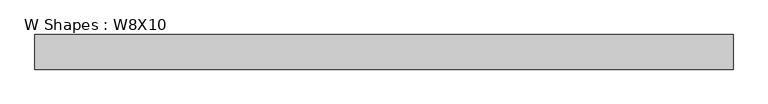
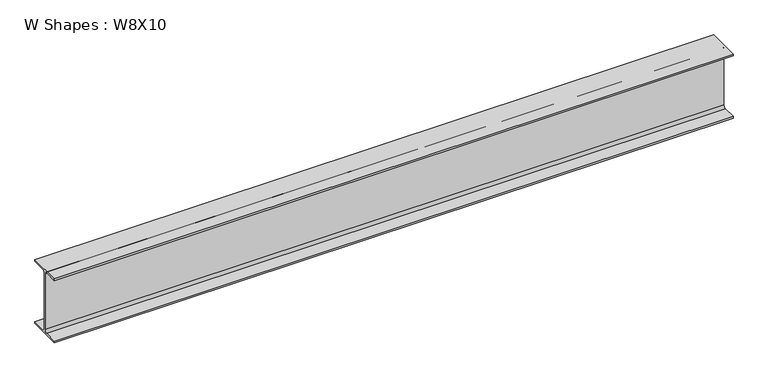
"""IFC4 building model written with IfcOpenShell, lengths in millimetres: beam geometry, W Shapes : W8X10."""

from ifc_helpers import new_model, si_unit, point, frame, frame_2d, origin, place, context, project, spatial, polyline, circle_curve, trimmed, segment, composite_curve, outline, extrude, source, transform, mapped, element, save


def w_shapes_w8x10_0597b553(model_context):
    return source(origin(), model_context, "Body", "SweptSolid", [
        extrude(outline(composite_curve([segment(polyline([(50.038, -94.996), (50.038, -100.203), (-50.038, -100.203), (-50.038, -94.996), (-9.779, -94.996)]), True, "CONTINUOUS"), segment(trimmed(circle_curve(frame_2d((-9.779, -87.376)), 7.62), [point((-9.779, -94.996))], [point((-2.159, -87.376))], True, "CARTESIAN"), True, "CONTINUOUS"), segment(polyline([(-2.159, -87.376), (-2.159, 87.376)]), True, "CONTINUOUS"), segment(trimmed(circle_curve(frame_2d((-9.779, 87.376)), 7.62), [point((-2.159, 87.376))], [point((-9.779, 94.996))], True, "CARTESIAN"), True, "CONTINUOUS"), segment(polyline([(-9.779, 94.996), (-50.038, 94.996), (-50.038, 100.203), (50.038, 100.203), (50.038, 94.996), (9.779, 94.996)]), True, "CONTINUOUS"), segment(trimmed(circle_curve(frame_2d((9.779, 87.376)), 7.62), [point((9.779, 94.996))], [point((2.159, 87.376))], True, "CARTESIAN"), True, "CONTINUOUS"), segment(polyline([(2.159, 87.376), (2.159, -87.376)]), True, "CONTINUOUS"), segment(trimmed(circle_curve(frame_2d((9.779, -87.376)), 7.62), [point((2.159, -87.376))], [point((9.779, -94.996))], True, "CARTESIAN"), True, "CONTINUOUS"), segment(polyline([(9.779, -94.996), (50.038, -94.996)]), True, "CONTINUOUS")], self_intersect=False)), frame((-1008.5886429, 0.0, 0.0), z_axis=(1.0, 0.0, 0.0), x_axis=(0.0, 1.0, 0.0)), (0.0, 0.0, 1.0), 2017.1772857),
    ])


if __name__ == "__main__":
    model = new_model("IFC4")
    model_context = context("Model", 3, world=origin())
    ifc_project = project(units=[si_unit("LENGTHUNIT", "METRE", prefix="MILLI")], contexts=[model_context])
    site = spatial("IfcSite", under=ifc_project)
    building = spatial("IfcBuilding", under=site)
    placement = place(None, origin())
    w_shapes_w8x10_shape = w_shapes_w8x10_0597b553(model_context)
    element("IfcBeam", 1, ObjectType="W Shapes : W8X10", at=placement, inside=building, context=model_context, shape_type="MappedRepresentation", body=[
        mapped(w_shapes_w8x10_shape, transform((0.0, 0.0, 0.0), x_axis=(1.0, 0.0, 0.0), y_axis=(0.0, 1.0, 0.0), z_axis=(0.0, 0.0, 1.0))),
    ])
    save(model, "model.ifc")
